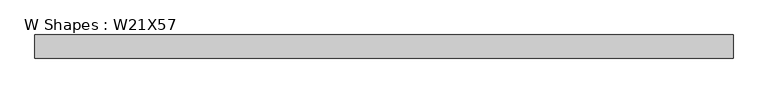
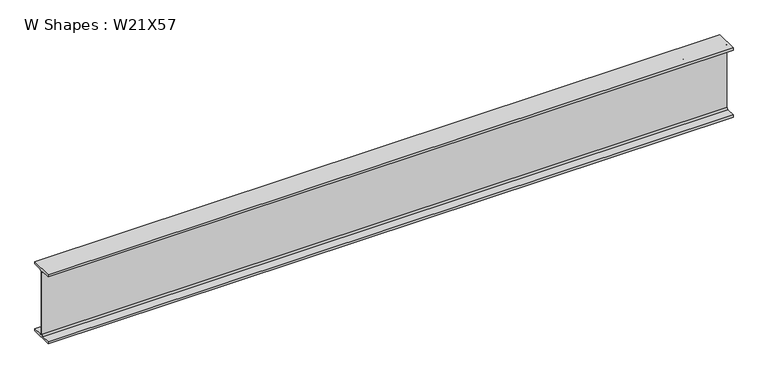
"""IFC4 building model written with IfcOpenShell, lengths in millimetres: beam geometry, W Shapes : W21X57."""

from ifc_helpers import new_model, si_unit, point, frame, frame_2d, origin, place, context, project, spatial, polyline, circle_curve, trimmed, segment, composite_curve, outline, extrude, source, transform, mapped, element, save


def w_shapes_w21x57_2037f795(model_context):
    return source(origin(), model_context, "Body", "SweptSolid", [
        extrude(outline(composite_curve([segment(polyline([(83.312, -251.46), (83.312, -267.97), (-83.312, -267.97), (-83.312, -251.46), (-17.8435, -251.46)]), True, "CONTINUOUS"), segment(trimmed(circle_curve(frame_2d((-17.8435, -238.76)), 12.7), [point((-17.8435, -251.46))], [point((-5.1435, -238.76))], True, "CARTESIAN"), True, "CONTINUOUS"), segment(polyline([(-5.1435, -238.76), (-5.1435, 238.76)]), True, "CONTINUOUS"), segment(trimmed(circle_curve(frame_2d((-17.8435, 238.76)), 12.7), [point((-5.1435, 238.76))], [point((-17.8435, 251.46))], True, "CARTESIAN"), True, "CONTINUOUS"), segment(polyline([(-17.8435, 251.46), (-83.312, 251.46), (-83.312, 267.97), (83.312, 267.97), (83.312, 251.46), (17.8435, 251.46)]), True, "CONTINUOUS"), segment(trimmed(circle_curve(frame_2d((17.8435, 238.76)), 12.7), [point((17.8435, 251.46))], [point((5.1435, 238.76))], True, "CARTESIAN"), True, "CONTINUOUS"), segment(polyline([(5.1435, 238.76), (5.1435, -238.76)]), True, "CONTINUOUS"), segment(trimmed(circle_curve(frame_2d((17.8435, -238.76)), 12.7), [point((5.1435, -238.76))], [point((17.8435, -251.46))], True, "CARTESIAN"), True, "CONTINUOUS"), segment(polyline([(17.8435, -251.46), (83.312, -251.46)]), True, "CONTINUOUS")], self_intersect=False)), frame((-2549.339694, 0.0, 0.0), z_axis=(1.0, 0.0, 0.0), x_axis=(0.0, 1.0, 0.0)), (0.0, 0.0, 1.0), 5023.8568363),
    ])


if __name__ == "__main__":
    model = new_model("IFC4")
    model_context = context("Model", 3, world=origin())
    ifc_project = project(units=[si_unit("LENGTHUNIT", "METRE", prefix="MILLI")], contexts=[model_context])
    site = spatial("IfcSite", under=ifc_project)
    building = spatial("IfcBuilding", under=site)
    placement = place(None, origin())
    w_shapes_w21x57_shape = w_shapes_w21x57_2037f795(model_context)
    element("IfcBeam", 1, ObjectType="W Shapes : W21X57", at=placement, inside=building, context=model_context, shape_type="MappedRepresentation", body=[
        mapped(w_shapes_w21x57_shape, transform((0.0, 0.0, 0.0), x_axis=(1.0, 0.0, 0.0), y_axis=(0.0, 1.0, 0.0), z_axis=(0.0, 0.0, 1.0))),
    ])
    save(model, "model.ifc")
